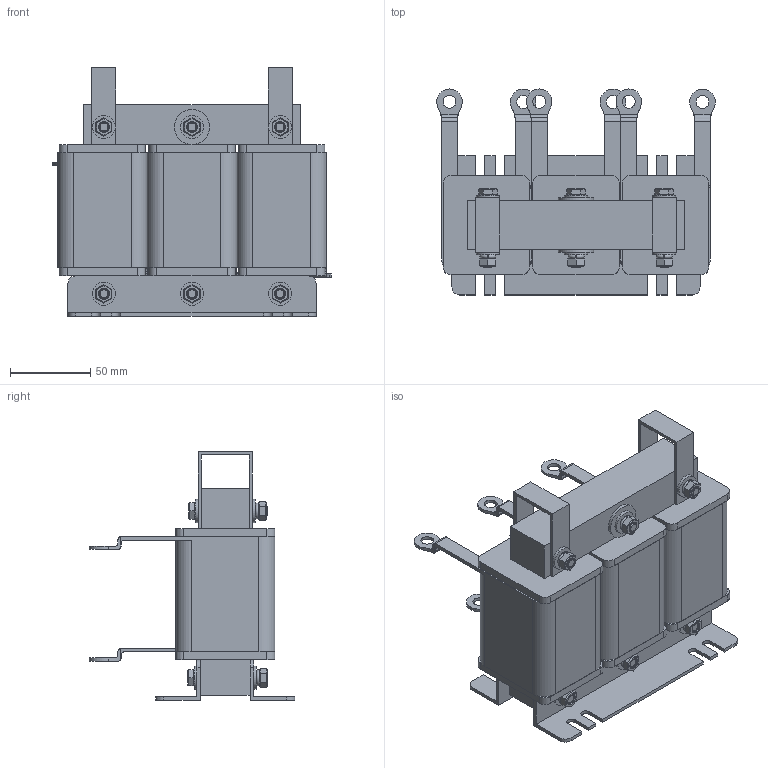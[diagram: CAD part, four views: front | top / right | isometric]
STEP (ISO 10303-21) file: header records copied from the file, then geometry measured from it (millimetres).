
FILE_DESCRIPTION(('STEP AP203'), '1');
FILE_NAME('栖闉罻 _ ISF-22_46.5-4', '', ('UNSPECIFIED'), ('UNSPECIFIED'), 'ASCON STEP Converter 1.6', 'ASCON Math Kernel', '');
FILE_SCHEMA(('CONFIG_CONTROL_DESIGN'));
Length unit declared in the file: millimetre
Products named in the file (12): ISF-22_46.5-4
Assembly tree (47 placements, depth 2):
  ISF-22_46.5-4
    ISF-22_46.5-4
    ISF-22_46.5-4  x2
    ISF-22_46.5-4  x6
    ISF-22_46.5-4  x3
    ISF-22_46.5-4
    ISF-22_46.5-4  x2
    ISF-22_46.5-4  x2
    ISF-22_46.5-4  x12
    ISF-22_46.5-4  x6
    ISF-22_46.5-4  x6
    ISF-22_46.5-4  x6
Bounding box: 174 x 128.5 x 155.2 mm (x, y, z)
Volume: 1083374.8 mm3; surface area: 215641.1 mm2
Topology: 47 solids, 47 shells, 628 faces, 1416 edges, 888 vertices
Faces by surface type: plane 448, cylinder 156, cone 18, torus 6
Full cylindrical faces by diameter (mm): 6 x42, 8 x6, 14.5 x12, 22 x2
Entity records: 6782 total; most frequent: CARTESIAN_POINT 1350, DIRECTION 888, ORIENTED_EDGE 754, EDGE_CURVE 377, AXIS2_PLACEMENT_3D 311, LINE 266, VECTOR 266, VERTEX_POINT 257
